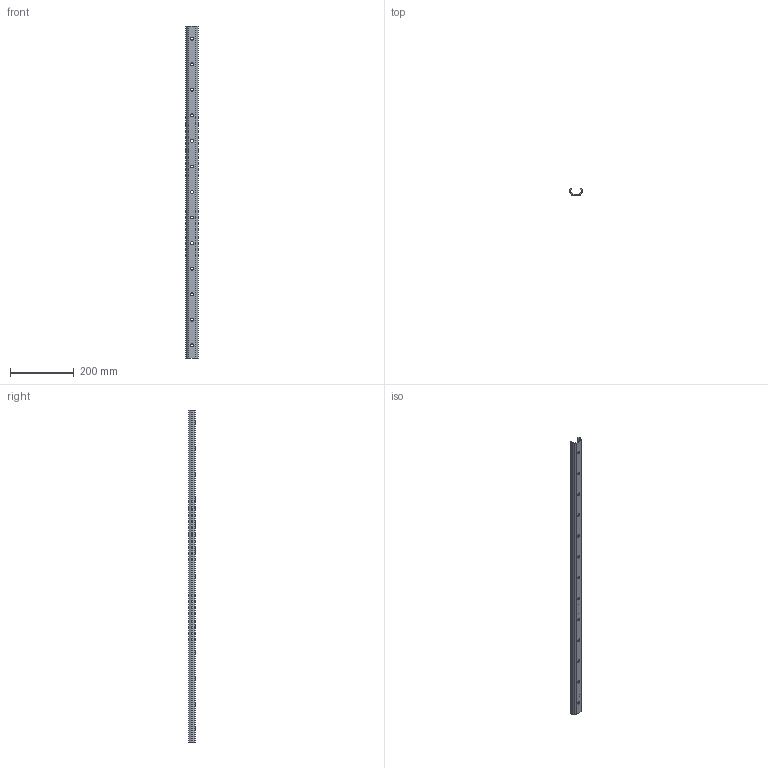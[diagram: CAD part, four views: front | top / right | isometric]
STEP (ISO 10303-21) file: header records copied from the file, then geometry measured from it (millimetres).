
FILE_DESCRIPTION(('STEP AP214'),'1');
FILE_NAME('rail_tex40-1040.stp','2019-03-08T08:32:59',('TraceParts'),('TraceParts S.A.'),'Spatial InterOp 3D',' ',' ');
FILE_SCHEMA(('automotive_design'));
Length unit declared in the file: millimetre
Products named in the file (1): rail_tex40-1040
Bounding box: 39.53 x 21 x 1040 mm (x, y, z)
Volume: 203331.1 mm3; surface area: 143476.7 mm2
Topology: 1 solids, 1 shells, 257 faces, 669 edges, 446 vertices
Faces by surface type: plane 179, bspline 40, cylinder 38
Entity records: 16080 total; most frequent: CARTESIAN_POINT 7821, ORIENTED_EDGE 1338, DIRECTION 1101, EDGE_CURVE 669, LINE 513, VECTOR 513, VERTEX_POINT 446, EDGE_LOOP 315
